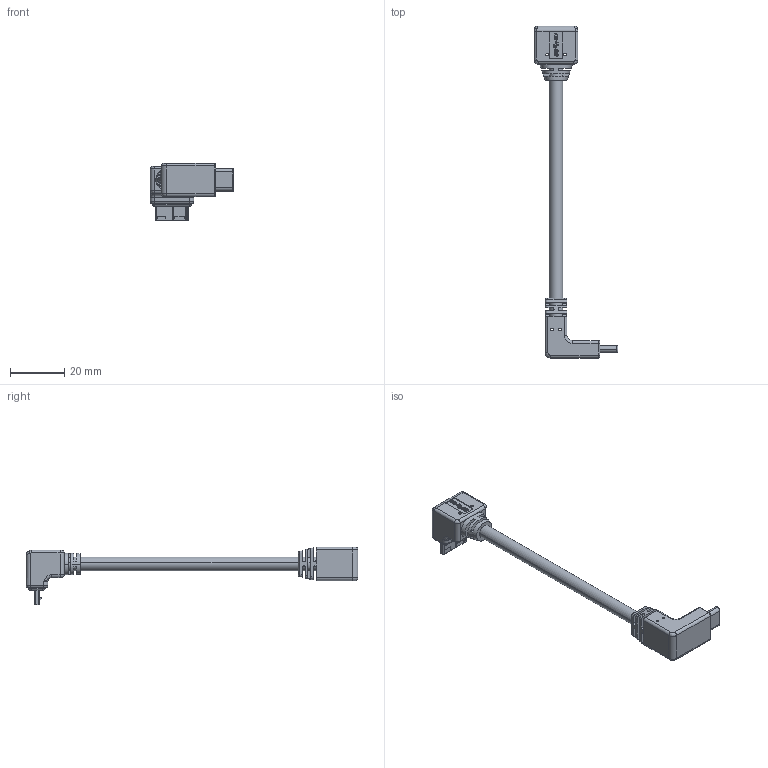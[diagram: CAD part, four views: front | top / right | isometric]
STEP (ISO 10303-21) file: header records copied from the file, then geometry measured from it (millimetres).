
FILE_DESCRIPTION (( 'STEP AP203' ), '1' );
FILE_NAME ('RR-MUCV-XXGRA_202302.STEP', '2023-02-17T05:39:15', ( '' ), ( '' ), 'SwSTEP 2.0', 'SolidWorks 2019', '' );
FILE_SCHEMA (( 'CONFIG_CONTROL_DESIGN' ));
Length unit declared in the file: millimetre
Products named in the file (1): RR-MUCV-XXGRA_202302
Bounding box: 30.65 x 121.9 x 21.14 mm (x, y, z)
Volume: 7518.9 mm3; surface area: 4944.9 mm2
Topology: 1 solids, 1 shells, 477 faces, 1311 edges, 850 vertices
Faces by surface type: cylinder 230, plane 200, torus 27, bspline 16, cone 4
Entity records: 16983 total; most frequent: CARTESIAN_POINT 4666, ORIENTED_EDGE 2614, DIRECTION 2569, EDGE_CURVE 1307, AXIS2_PLACEMENT_3D 927, VERTEX_POINT 850, VECTOR 715, LINE 715
